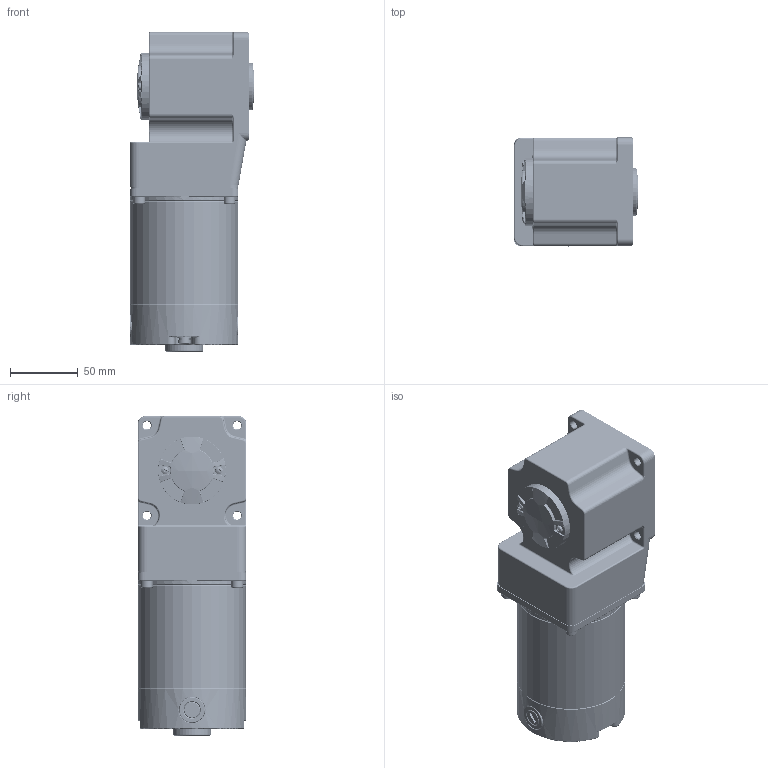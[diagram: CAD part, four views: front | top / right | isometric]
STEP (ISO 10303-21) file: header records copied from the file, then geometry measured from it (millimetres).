
FILE_DESCRIPTION (( 'STEP AP203' ), '1' );
FILE_NAME ('80-76»ú¿ÇRC.STEP', '2020-04-15T06:59:16', ( '' ), ( '' ), 'SwSTEP 2.0', 'SolidWorks 2018', '' );
FILE_SCHEMA (( 'CONFIG_CONTROL_DESIGN' ));
Length unit declared in the file: millimetre
Products named in the file (25): PRT0063_1; HOUGAI-80-1_1_1; PRT0068_1; PRT0066_1; PRT0064_1; 4IK25GN-C-4GN3-180RC_ASM_1_ASM_ASM_1; 4RRRRRT_1; PRT0062_1; 4IK25GN-C-4GN3-180RC_ASM_ASM_ASM_1; JIKEI-80_1; ZHENGJI_ASM_ASM_ASM_1; 4RK25GN-CM-4GN3-180RC_ASM_ASM_1; PRT0067_1; LUDING_1_1; 80-25w_1_1_1; PRT0065_1; 4RK25GN-CM-4GN3-180RC_ASM_1_ASM_1; TANDIAN_1_1; 80-76儂褲RC; PRT0061_1; PENGDIAN_1_1; PRT0069_1; ASM0005_ASM_1; QIANGAI-80_1_1_1; PRT0060_1
Assembly tree (31 placements, depth 9):
  80-76儂褲RC
    80-25w_1_1_1
      LUDING_1_1  x2
      TANDIAN_1_1  x2
      JIKEI-80_1
      QIANGAI-80_1_1_1
      HOUGAI-80-1_1_1
      PENGDIAN_1_1  x2
    4RRRRRT_1
      4RK25GN-CM-4GN3-180RC_ASM_ASM_1
        4RK25GN-CM-4GN3-180RC_ASM_1_ASM_1
          4IK25GN-C-4GN3-180RC_ASM_ASM_ASM_1
            4IK25GN-C-4GN3-180RC_ASM_1_ASM_ASM_1
              ZHENGJI_ASM_ASM_ASM_1
                ASM0005_ASM_1
                  PRT0060_1
                  PRT0061_1
                  PRT0062_1
                  PRT0063_1
              PRT0064_1  x2
              PRT0065_1
              PRT0066_1
              PRT0067_1
              PRT0068_1
              PRT0069_1  x4
Bounding box: 91.5 x 80 x 235.5 mm (x, y, z)
Volume: 496998.8 mm3; surface area: 209729 mm2
Topology: 27 solids, 27 shells, 4049 faces, 9385 edges, 5360 vertices
Faces by surface type: cone 1524, cylinder 1235, plane 525, torus 435, bspline 217, sphere 113
Entity records: 126586 total; most frequent: CARTESIAN_POINT 56229, DIRECTION 14247, ORIENTED_EDGE 14180, EDGE_CURVE 7090, AXIS2_PLACEMENT_3D 5902, VERTEX_POINT 4139, EDGE_LOOP 3195, ADVANCED_FACE 3063
